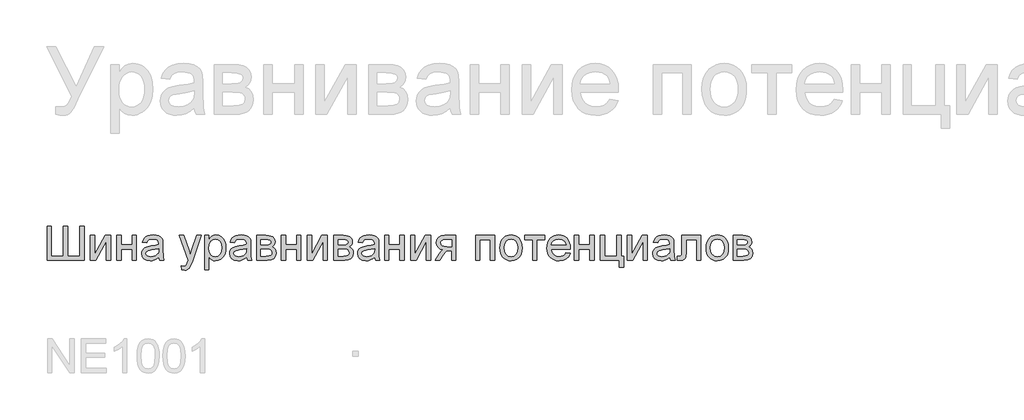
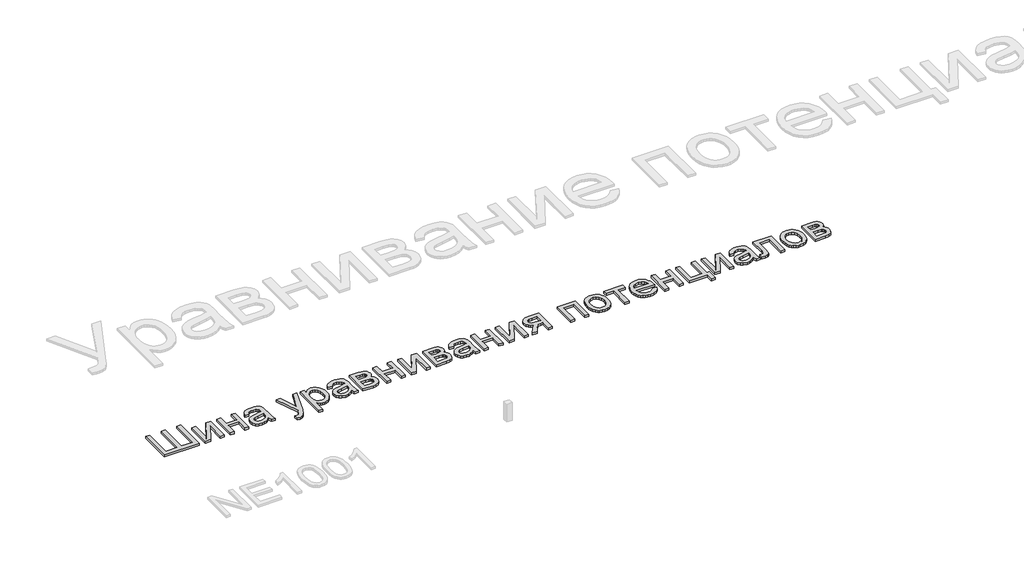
# One storey, part 82 of 124: 1 proxy.
"""IFC4 building model written with IfcOpenShell, lengths in millimetres."""

import ifcopenshell
import ifcopenshell.guid

model = None  # the IFC model being written
_history = None  # IfcOwnerHistory: only IFC2X3 demands one
_inside = {}  # id of a spatial element -> (the spatial element, [elements in it])
_under = {}  # id of a project, library or spatial element -> (it, [spatial elements below it])
_declared = {}  # id of a project -> (the project, [libraries it declares])
_typed = {}  # id of a type object -> (the type object, [elements of that type])
_made_of = {}  # id of a material, layer set ... -> (it, [elements and type objects made of it])


def new_model(schema):
    """Start an empty IFC model of exactly this schema.

    Asked for "IFC4X3", IfcOpenShell would pick the latest addendum, in which some entities
    have other attributes; the version numbers below select the first issue.
    IFC2X3 requires an IfcOwnerHistory on every rooted entity: one is made here for all.
    """
    global model, _history
    if schema == "IFC4X3":
        model = ifcopenshell.file(schema_version=(4, 3, 0, 0))
    else:
        model = ifcopenshell.file(schema=schema)
    _inside.clear()
    _under.clear()
    _declared.clear()
    _typed.clear()
    _made_of.clear()
    _history = None
    if model.schema == "IFC2X3":
        org = make("IfcOrganization", Name="unknown")
        user = make(
            "IfcPersonAndOrganization",
            ThePerson=make("IfcPerson", FamilyName="unknown"),
            TheOrganization=org,
        )
        app = make(
            "IfcApplication",
            ApplicationDeveloper=org,
            Version="unknown",
            ApplicationFullName="unknown",
            ApplicationIdentifier="unknown",
        )
        _history = make(
            "IfcOwnerHistory",
            OwningUser=user,
            OwningApplication=app,
            ChangeAction="ADDED",
            CreationDate=0,
        )
    return model


def make(cls, **values):
    """One entity of the class cls with the attributes given. An attribute that is None is left unset."""
    return model.create_entity(
        cls, **{name: value for name, value in values.items() if value is not None}
    )


def rooted(cls, **values):
    """An entity with a GlobalId (a new one), such as an element, a storey or a relation."""
    return make(cls, GlobalId=ifcopenshell.guid.new(), OwnerHistory=_history, **values)


def si_unit(unit_type, name, prefix=None):
    """IfcSIUnit, for example si_unit("LENGTHUNIT", "METRE", prefix="MILLI")."""
    return make("IfcSIUnit", UnitType=unit_type, Prefix=prefix, Name=name)


def assignment(units):
    """IfcUnitAssignment: the units of a project."""
    return None if units is None else make("IfcUnitAssignment", Units=units)


def point(xyz):
    """IfcCartesianPoint."""
    return None if xyz is None else make("IfcCartesianPoint", Coordinates=xyz)


def direction(xyz):
    """IfcDirection."""
    return None if xyz is None else make("IfcDirection", DirectionRatios=xyz)


def frame(location, z_axis=None, x_axis=None):
    """IfcAxis2Placement3D, a coordinate frame: its origin and axes. An axis left out is left unset."""
    return make(
        "IfcAxis2Placement3D",
        Location=point(location),
        Axis=direction(z_axis),
        RefDirection=direction(x_axis),
    )


def origin():
    """The frame at (0, 0, 0) with its axes left unset."""
    return frame((0.0, 0.0, 0.0))


def origin_with_axes():
    """The frame at (0, 0, 0) with the z axis (0, 0, 1) and the x axis (1, 0, 0) written out."""
    return frame((0.0, 0.0, 0.0), z_axis=(0.0, 0.0, 1.0), x_axis=(1.0, 0.0, 0.0))


def place(relative_to, where):
    """IfcLocalPlacement: puts the frame where relative to a parent placement (None: the world)."""
    return make(
        "IfcLocalPlacement", PlacementRelTo=relative_to, RelativePlacement=where
    )


def context(
    kind, dimensions, precision=None, world=None, true_north=None, identifier=None
):
    """IfcGeometricRepresentationContext, for example the 3D "Model" context."""
    return make(
        "IfcGeometricRepresentationContext",
        ContextIdentifier=identifier,
        ContextType=kind,
        CoordinateSpaceDimension=dimensions,
        Precision=precision,
        WorldCoordinateSystem=world,
        TrueNorth=true_north,
    )


def project(units=None, contexts=None):
    """IfcProject with its units and contexts."""
    return rooted(
        "IfcProject",
        Name="project",
        RepresentationContexts=contexts,
        UnitsInContext=assignment(units),
    )


def spatial(cls, under=None, at=None, **own):
    """A site, building, storey or space (cls), placed at a placement, below another one or the project."""
    s = rooted(cls, ObjectPlacement=at, **own)
    if under is not None:
        _under.setdefault(under.id(), (under, []))[1].append(s)
    return s


def polyline(points):
    """IfcPolyline through the points."""
    return make("IfcPolyline", Points=[point(p) for p in points])


def outline(outer, holes=None, kind="AREA"):
    """IfcArbitraryClosedProfileDef: a profile drawn as a closed curve; with holes, ...WithVoids."""
    if holes is None:
        return make("IfcArbitraryClosedProfileDef", ProfileType=kind, OuterCurve=outer)
    return make(
        "IfcArbitraryProfileDefWithVoids",
        ProfileType=kind,
        OuterCurve=outer,
        InnerCurves=holes,
    )


def extrude(swept, where, along, depth):
    """IfcExtrudedAreaSolid: the profile swept, set in the frame where, extruded along a direction by depth."""
    return make(
        "IfcExtrudedAreaSolid",
        SweptArea=swept,
        Position=where,
        ExtrudedDirection=direction(along),
        Depth=depth,
    )


def shape(context_of_items, identifier, shape_type, items):
    """IfcShapeRepresentation: the items that make up one representation, for example the "Body"."""
    return make(
        "IfcShapeRepresentation",
        ContextOfItems=context_of_items,
        RepresentationIdentifier=identifier,
        RepresentationType=shape_type,
        Items=items,
    )


def made_of(thing, what):
    """Note that an element or type object is made of a material, layer set ...; save() writes the relation."""
    if what is not None:
        _made_of.setdefault(what.id(), (what, []))[1].append(thing)
    return thing


def element(
    cls,
    number,
    at=None,
    inside=None,
    cuts=None,
    type_object=None,
    material=None,
    context=None,
    identifier="Body",
    shape_type=None,
    held_by="IfcProductDefinitionShape",
    body=None,
    shapes=None,
    **own,
):
    """One element of the class cls, such as IfcWall. Its Tag is "e" and its number.

    at: its placement. inside: the storey or other place that contains it. cuts: it is an
    opening in that element (IfcRelVoidsElement). A single representation is given by context,
    identifier, shape_type and body (its items); several are given by shapes. held_by: the class
    of the entity that holds the representations. save() writes the other relations.
    """
    e = rooted(cls, Tag="e%d" % number, ObjectPlacement=at, **own)
    if body is not None:
        shapes = [shape(context, identifier, shape_type, body)]
    if shapes is not None:
        e.Representation = make(held_by, Representations=shapes)
    if inside is not None:
        _inside.setdefault(inside.id(), (inside, []))[1].append(e)
    if cuts is not None:
        rooted(
            "IfcRelVoidsElement", RelatingBuildingElement=cuts, RelatedOpeningElement=e
        )
    if type_object is not None:
        _typed.setdefault(type_object.id(), (type_object, []))[1].append(e)
    return made_of(e, material)


def aggregate(whole, parts):
    """IfcRelAggregates: a whole, such as a stair, and the parts it consists of."""
    return rooted("IfcRelAggregates", RelatingObject=whole, RelatedObjects=parts)


def save(model, path):
    """Write the relations noted so far, then the file.

    IfcRelAggregates (storeys below a building ...), IfcRelContainedInSpatialStructure (elements
    in a storey), IfcRelDefinesByType, IfcRelAssociatesMaterial and IfcRelDeclares: one each for
    every whole, place, type object, material and project.
    """
    for whole, parts in _under.values():
        aggregate(whole, parts)
    for where, things in _inside.values():
        rooted(
            "IfcRelContainedInSpatialStructure",
            RelatedElements=things,
            RelatingStructure=where,
        )
    for kind, things in _typed.values():
        rooted("IfcRelDefinesByType", RelatedObjects=things, RelatingType=kind)
    for what, things in _made_of.values():
        rooted("IfcRelAssociatesMaterial", RelatedObjects=things, RelatingMaterial=what)
    for by, libraries in _declared.values():
        rooted("IfcRelDeclares", RelatingContext=by, RelatedDefinitions=libraries)
    model.write(path)


model = new_model("IFC4")

# Units and contexts
model_context = context("Model", 3, world=origin())
ifc_project = project(units=[si_unit("LENGTHUNIT", "METRE", prefix="MILLI")], contexts=[model_context])

# Site, building, storey
site = spatial("IfcSite", under=ifc_project)
building = spatial("IfcBuilding", under=site)
storey = spatial("IfcBuildingStorey", under=building, Name="Этаж 01", Elevation=0.0)

# Proxy
placement = place(None, origin())
element("IfcBuildingElementProxy", 1, Name="300", ObjectType="300", at=placement, inside=storey, context=model_context, shape_type="SweptSolid", body=[
    extrude(outline(polyline([(45235.1586486, -49773.1294316), (45272.8297649, -49773.1294316), (45272.8297649, -50036.8272457), (45381.1342243, -50036.8272457), (45381.1342243, -49773.1294316), (45418.8053406, -49773.1294316), (45418.8053406, -50036.8272457), (45527.1098, -50036.8272457), (45527.1098, -49773.1294316), (45564.7809163, -49773.1294316), (45564.7809163, -50074.498362), (45235.1586486, -50074.498362), (45235.1586486, -49773.1294316)])), origin_with_axes(), (0.0, 0.0, 1.0), 20.0),
    extrude(outline(polyline([(45621.2875907, -49853.1805537), (45658.9587071, -49853.1805537), (45658.9587071, -50021.9648131), (45751.517817, -49853.1805537), (45800.2253932, -49853.1805537), (45800.2253932, -50074.498362), (45762.5542769, -50074.498362), (45762.5542769, -49906.7441722), (45670.5837781, -50074.498362), (45621.2875907, -50074.498362), (45621.2875907, -49853.1805537)])), origin_with_axes(), (0.0, 0.0, 1.0), 20.0),
    extrude(outline(polyline([(45856.7320677, -49853.1805537), (45894.403184, -49853.1805537), (45894.403184, -49937.9405654), (45993.2898643, -49937.9405654), (45993.2898643, -49853.1805537), (46030.9609806, -49853.1805537), (46030.9609806, -50074.498362), (45993.2898643, -50074.498362), (45993.2898643, -49975.6116817), (45894.403184, -49975.6116817), (45894.403184, -50074.498362), (45856.7320677, -50074.498362), (45856.7320677, -49853.1805537)])), origin_with_axes(), (0.0, 0.0, 1.0), 20.0),
    extrude(outline(polyline([(46228.7343412, -50046.2450248), (46210.7357146, -50061.6776745), (46192.2036591, -50071.7760352), (46172.7151104, -50077.3494475), (46151.8470042, -50079.2072515), (46120.3655025, -50074.7374853), (46097.1429515, -50061.3281866), (46082.8231448, -50040.9659181), (46078.049876, -50015.6372428), (46079.8524977, -50000.0206521), (46085.2603631, -49985.8388012), (46093.6020873, -49973.6986953), (46104.2062858, -49964.2073398), (46130.5834249, -49951.8465048), (46163.1777696, -49946.1811221), (46201.6950145, -49940.2214338), (46228.513612, -49933.2316759), (46228.7343412, -49924.8439664), (46226.1407731, -49908.0317592), (46218.3600689, -49897.0320875), (46200.9592505, -49888.8651072), (46176.7158271, -49886.1427805), (46154.2750254, -49887.9545993), (46138.6032524, -49893.3900558), (46127.9162804, -49903.4424313), (46120.4298818, -49919.1050072), (46082.7587655, -49914.3961177), (46089.297868, -49893.794726), (46099.0559379, -49877.6079182), (46112.9434832, -49865.228689), (46131.8710119, -49856.0500333), (46155.0199864, -49850.3662564), (46181.5718694, -49848.4716642), (46207.0385005, -49850.1455272), (46227.226025, -49855.1671165), (46242.4471426, -49862.7178944), (46253.0145529, -49871.9793237), (46260.0227049, -49883.4296508), (46264.5660475, -49897.5471223), (46266.4054575, -49930.5093491), (46266.4054575, -49977.3775153), (46268.3184439, -50042.8237222), (46275.8232366, -50074.498362), (46238.1521203, -50074.498362), (46228.7343412, -50046.2450248)]), holes=[polyline([(46228.7343412, -49970.9027922), (46167.9602356, -49982.4542868), (46135.5498318, -49988.5611279), (46120.8713402, -49998.4939418), (46115.7209923, -50012.9884924), (46118.5260925, -50024.1904992), (46126.9413931, -50033.3691549), (46140.7829532, -50039.4943902), (46159.8668317, -50041.5361352), (46180.1003414, -50039.282858), (46197.9794064, -50032.5230264), (46212.473957, -50022.5626213), (46222.5539237, -50010.707624), (46227.0236899, -49998.4939418), (46228.513612, -49981.57137), (46228.7343412, -49970.9027922)])]), origin_with_axes(), (0.0, 0.0, 1.0), 20.0),
    extrude(outline(polyline([(46435.9254809, -50159.2583737), (46431.2165913, -50122.985209), (46450.3464551, -50126.2961469), (46468.22552, -50122.1390804), (46479.1884035, -50110.5507975), (46489.4890994, -50082.8124951), (46492.4321553, -50073.6890216), (46412.3810332, -49853.1805537), (46452.1122887, -49853.1805537), (46494.5658709, -49976.0531401), (46509.3547271, -50025.2021746), (46524.1435833, -49981.7920992), (46567.7743879, -49853.1805537), (46607.2113378, -49853.1805537), (46530.176848, -50079.7958627), (46510.1640675, -50128.9448973), (46499.9185539, -50144.6350644), (46488.311877, -50155.5059773), (46474.8290019, -50161.8519418), (46458.9548938, -50163.9672632), (46435.9254809, -50159.2583737)])), origin_with_axes(), (0.0, 0.0, 1.0), 20.0),
    extrude(outline(polyline([(46638.407731, -50159.2583737), (46638.407731, -49853.1805537), (46676.0788473, -49853.1805537), (46676.0788473, -49890.115906), (46688.366106, -49871.8965502), (46702.1248926, -49858.8827246), (46718.1645476, -49851.0744293), (46737.2944113, -49848.4716642), (46762.7702395, -49852.1136959), (46785.0454943, -49863.0397912), (46803.1820767, -49880.5877623), (46816.2418875, -49904.0954218), (46824.1329563, -49931.8521184), (46826.7633125, -49962.1472007), (46823.7926654, -49994.3644664), (46814.8807241, -50023.1788237), (46800.3125971, -50047.1279416), (46780.373393, -50064.7494891), (46757.150842, -50075.5928109), (46732.7326746, -50079.2072515), (46715.4146297, -50076.7884274), (46699.9543888, -50069.5319551), (46686.719834, -50058.5782687), (46676.0788473, -50045.0678024), (46676.0788473, -50159.2583737), (46638.407731, -50159.2583737)]), holes=[polyline([(46676.0788473, -49965.6052914), (46680.1531404, -49999.3768586), (46692.3760197, -50022.9948827), (46710.4114345, -50036.9008221), (46731.9233342, -50041.5361352), (46753.7847218, -50036.7352752), (46772.2799891, -50022.3326951), (46784.8891444, -49997.8501483), (46789.0921962, -49962.8093883), (46784.990312, -49929.2217621), (46772.6846593, -49905.2726442), (46754.6768356, -49890.9252464), (46733.4684386, -49886.1427805), (46712.1772681, -49891.2287491), (46693.4796657, -49906.4866548), (46680.4290519, -49931.4382511), (46676.0788473, -49965.6052914)])]), origin_with_axes(), (0.0, 0.0, 1.0), 20.0),
    extrude(outline(polyline([(47010.4100045, -50046.2450248), (46992.4113779, -50061.6776745), (46973.8793224, -50071.7760352), (46954.3907737, -50077.3494475), (46933.5226675, -50079.2072515), (46902.0411658, -50074.7374853), (46878.8186149, -50061.3281866), (46864.4988082, -50040.9659181), (46859.7255393, -50015.6372428), (46861.5281611, -50000.0206521), (46866.9360264, -49985.8388012), (46875.2777507, -49973.6986953), (46885.8819492, -49964.2073398), (46912.2590882, -49951.8465048), (46944.853433, -49946.1811221), (46983.3706779, -49940.2214338), (47010.1892753, -49933.2316759), (47010.4100045, -49924.8439664), (47007.8164365, -49908.0317592), (47000.0357323, -49897.0320875), (46982.6349139, -49888.8651072), (46958.3914904, -49886.1427805), (46935.9506887, -49887.9545993), (46920.2789157, -49893.3900558), (46909.5919438, -49903.4424313), (46902.1055452, -49919.1050072), (46864.4344288, -49914.3961177), (46870.9735313, -49893.794726), (46880.7316012, -49877.6079182), (46894.6191466, -49865.228689), (46913.5466752, -49856.0500333), (46936.6956498, -49850.3662564), (46963.2475328, -49848.4716642), (46988.7141639, -49850.1455272), (47008.9016884, -49855.1671165), (47024.1228059, -49862.7178944), (47034.6902162, -49871.9793237), (47041.6983682, -49883.4296508), (47046.2417109, -49897.5471223), (47048.0811208, -49930.5093491), (47048.0811208, -49977.3775153), (47049.9941072, -50042.8237222), (47057.4988999, -50074.498362), (47019.8277836, -50074.498362), (47010.4100045, -50046.2450248)]), holes=[polyline([(47010.4100045, -49970.9027922), (46949.6358989, -49982.4542868), (46917.2254952, -49988.5611279), (46902.5470036, -49998.4939418), (46897.3966556, -50012.9884924), (46900.2017558, -50024.1904992), (46908.6170565, -50033.3691549), (46922.4586165, -50039.4943902), (46941.542495, -50041.5361352), (46961.7760048, -50039.282858), (46979.6550697, -50032.5230264), (46994.1496203, -50022.5626213), (47004.229587, -50010.707624), (47008.6993533, -49998.4939418), (47010.1892753, -49981.57137), (47010.4100045, -49970.9027922)])]), origin_with_axes(), (0.0, 0.0, 1.0), 20.0),
    extrude(outline(polyline([(47099.8789058, -49853.1805537), (47182.8730839, -49853.1805537), (47209.5537256, -49854.4405495), (47228.3800867, -49858.220537), (47242.2308438, -49865.3574477), (47253.9846735, -49876.6882132), (47262.0136981, -49891.4494783), (47264.6900396, -49908.8778878), (47263.0713588, -49922.9217829), (47258.2153165, -49935.0342976), (47250.1035185, -49945.2706141), (47238.7175707, -49953.6859148), (47252.6602984, -49961.5126042), (47264.027852, -49974.1033655), (47271.587827, -49990.4649173), (47274.1078187, -50009.6039781), (47267.7250661, -50038.3171678), (47252.5499338, -50058.5322834), (47228.5272395, -50070.5068424), (47195.6018009, -50074.498362), (47099.8789058, -50074.498362), (47099.8789058, -49853.1805537)]), holes=[polyline([(47137.5500221, -50036.8272457), (47183.7560007, -50036.8272457), (47208.9375232, -50035.1257915), (47224.7380549, -50030.0214288), (47233.2177349, -50020.7416055), (47236.4367024, -50006.5137693), (47234.8272186, -49997.0867932), (47229.9987675, -49988.3771869), (47222.5859453, -49981.562173), (47213.2233485, -49977.8189737), (47180.0771807, -49975.6116817), (47137.5500221, -49975.6116817), (47137.5500221, -50036.8272457)]), polyline([(47137.5500221, -49937.9405654), (47174.77968, -49937.9405654), (47205.4978266, -49936.027579), (47220.4338356, -49928.3756335), (47225.3726514, -49922.0480632), (47227.0189233, -49914.5432705), (47224.1310496, -49903.3044755), (47215.4674286, -49896.0755943), (47199.8140498, -49892.1576511), (47175.9569024, -49890.85167), (47137.5500221, -49890.85167), (47137.5500221, -49937.9405654)])]), origin_with_axes(), (0.0, 0.0, 1.0), 20.0),
    extrude(outline(polyline([(47321.1967141, -49853.1805537), (47358.8678304, -49853.1805537), (47358.8678304, -49937.9405654), (47457.7545107, -49937.9405654), (47457.7545107, -49853.1805537), (47495.425627, -49853.1805537), (47495.425627, -50074.498362), (47457.7545107, -50074.498362), (47457.7545107, -49975.6116817), (47358.8678304, -49975.6116817), (47358.8678304, -50074.498362), (47321.1967141, -50074.498362), (47321.1967141, -49853.1805537)])), origin_with_axes(), (0.0, 0.0, 1.0), 20.0),
    extrude(outline(polyline([(47551.9323014, -49853.1805537), (47589.6034177, -49853.1805537), (47589.6034177, -50021.9648131), (47682.1625277, -49853.1805537), (47730.8701039, -49853.1805537), (47730.8701039, -50074.498362), (47693.1989876, -50074.498362), (47693.1989876, -49906.7441722), (47601.2284888, -50074.498362), (47551.9323014, -50074.498362), (47551.9323014, -49853.1805537)])), origin_with_axes(), (0.0, 0.0, 1.0), 20.0),
    extrude(outline(polyline([(47787.3767783, -49853.1805537), (47870.3709565, -49853.1805537), (47897.0515982, -49854.4405495), (47915.8779593, -49858.220537), (47929.7287164, -49865.3574477), (47941.4825461, -49876.6882132), (47949.5115707, -49891.4494783), (47952.1879122, -49908.8778878), (47950.5692314, -49922.9217829), (47945.7131891, -49935.0342976), (47937.6013911, -49945.2706141), (47926.2154433, -49953.6859148), (47940.1581709, -49961.5126042), (47951.5257246, -49974.1033655), (47959.0856996, -49990.4649173), (47961.6056913, -50009.6039781), (47955.2229386, -50038.3171678), (47940.0478063, -50058.5322834), (47916.0251121, -50070.5068424), (47883.0996735, -50074.498362), (47787.3767783, -50074.498362), (47787.3767783, -49853.1805537)]), holes=[polyline([(47825.0478947, -49937.9405654), (47862.2775526, -49937.9405654), (47892.9956992, -49936.027579), (47907.9317082, -49928.3756335), (47912.870524, -49922.0480632), (47914.5167959, -49914.5432705), (47911.6289222, -49903.3044755), (47902.9653012, -49896.0755943), (47887.3119223, -49892.1576511), (47863.454775, -49890.85167), (47825.0478947, -49890.85167), (47825.0478947, -49937.9405654)]), polyline([(47825.0478947, -50036.8272457), (47871.2538732, -50036.8272457), (47896.4353958, -50035.1257915), (47912.2359275, -50030.0214288), (47920.7156075, -50020.7416055), (47923.934575, -50006.5137693), (47922.3250912, -49997.0867932), (47917.49664, -49988.3771869), (47910.0838178, -49981.562173), (47900.7212211, -49977.8189737), (47867.5750533, -49975.6116817), (47825.0478947, -49975.6116817), (47825.0478947, -50036.8272457)])]), origin_with_axes(), (0.0, 0.0, 1.0), 20.0),
    extrude(outline(polyline([(48149.9612728, -50046.2450248), (48131.9626462, -50061.6776745), (48113.4305907, -50071.7760352), (48093.942042, -50077.3494475), (48073.0739358, -50079.2072515), (48041.5924341, -50074.7374853), (48018.3698831, -50061.3281866), (48004.0500765, -50040.9659181), (47999.2768076, -50015.6372428), (48001.0794293, -50000.0206521), (48006.4872947, -49985.8388012), (48014.8290189, -49973.6986953), (48025.4332174, -49964.2073398), (48051.8103565, -49951.8465048), (48084.4047013, -49946.1811221), (48122.9219462, -49940.2214338), (48149.7405436, -49933.2316759), (48149.9612728, -49924.8439664), (48147.3677047, -49908.0317592), (48139.5870005, -49897.0320875), (48122.1861822, -49888.8651072), (48097.9427587, -49886.1427805), (48075.501957, -49887.9545993), (48059.830184, -49893.3900558), (48049.143212, -49903.4424313), (48041.6568134, -49919.1050072), (48003.9856971, -49914.3961177), (48010.5247996, -49893.794726), (48020.2828695, -49877.6079182), (48034.1704148, -49865.228689), (48053.0979435, -49856.0500333), (48076.246918, -49850.3662564), (48102.798801, -49848.4716642), (48128.2654321, -49850.1455272), (48148.4529566, -49855.1671165), (48163.6740742, -49862.7178944), (48174.2414845, -49871.9793237), (48181.2496365, -49883.4296508), (48185.7929791, -49897.5471223), (48187.6323891, -49930.5093491), (48187.6323891, -49977.3775153), (48189.5453755, -50042.8237222), (48197.0501682, -50074.498362), (48159.3790519, -50074.498362), (48149.9612728, -50046.2450248)]), holes=[polyline([(48149.9612728, -49970.9027922), (48089.1871672, -49982.4542868), (48056.7767634, -49988.5611279), (48042.0982718, -49998.4939418), (48036.9479239, -50012.9884924), (48039.7530241, -50024.1904992), (48048.1683247, -50033.3691549), (48062.0098848, -50039.4943902), (48081.0937633, -50041.5361352), (48101.327273, -50039.282858), (48119.206338, -50032.5230264), (48133.7008886, -50022.5626213), (48143.7808553, -50010.707624), (48148.2506215, -49998.4939418), (48149.7405436, -49981.57137), (48149.9612728, -49970.9027922)])]), origin_with_axes(), (0.0, 0.0, 1.0), 20.0),
    extrude(outline(polyline([(48239.430174, -49853.1805537), (48277.1012903, -49853.1805537), (48277.1012903, -49937.9405654), (48375.9879706, -49937.9405654), (48375.9879706, -49853.1805537), (48413.6590869, -49853.1805537), (48413.6590869, -50074.498362), (48375.9879706, -50074.498362), (48375.9879706, -49975.6116817), (48277.1012903, -49975.6116817), (48277.1012903, -50074.498362), (48239.430174, -50074.498362), (48239.430174, -49853.1805537)])), origin_with_axes(), (0.0, 0.0, 1.0), 20.0),
    extrude(outline(polyline([(48470.1657614, -49853.1805537), (48507.8368777, -49853.1805537), (48507.8368777, -50021.9648131), (48600.3959877, -49853.1805537), (48649.1035639, -49853.1805537), (48649.1035639, -50074.498362), (48611.4324475, -50074.498362), (48611.4324475, -49906.7441722), (48519.4619488, -50074.498362), (48470.1657614, -50074.498362), (48470.1657614, -49853.1805537)])), origin_with_axes(), (0.0, 0.0, 1.0), 20.0),
    extrude(outline(polyline([(48875.1302617, -49853.1805537), (48875.1302617, -50074.498362), (48837.4591454, -50074.498362), (48837.4591454, -49989.7383503), (48816.9313301, -49989.7383503), (48788.9722984, -49994.5208163), (48777.8070799, -50004.9502708), (48762.705524, -50026.6737026), (48732.6863532, -50074.498362), (48689.1291249, -50074.498362), (48726.947394, -50014.018562), (48743.6492366, -49992.3135243), (48759.026704, -49982.675016), (48733.2749643, -49974.7839472), (48715.1751702, -49959.7927559), (48704.4698041, -49939.8535518), (48700.9013488, -49917.1184445), (48705.7757852, -49891.3299166), (48720.3990945, -49870.9124659), (48744.2562419, -49857.6135317), (48776.8321926, -49853.1805537), (48875.1302617, -49853.1805537)]), holes=[polyline([(48837.4591454, -49890.85167), (48787.795076, -49890.85167), (48762.1445039, -49893.0313708), (48747.585574, -49899.5704733), (48740.8257423, -49909.0342376), (48738.5724651, -49919.987924), (48741.8926001, -49934.3445189), (48751.8530051, -49944.3049239), (48770.2563019, -49950.1266565), (48798.9051123, -49952.067234), (48837.4591454, -49952.067234), (48837.4591454, -49890.85167)])]), origin_with_axes(), (0.0, 0.0, 1.0), 20.0),
    extrude(outline(polyline([(49049.3591746, -49853.1805537), (49218.879198, -49853.1805537), (49218.879198, -50074.498362), (49181.2080817, -50074.498362), (49181.2080817, -49890.85167), (49087.0302909, -49890.85167), (49087.0302909, -50074.498362), (49049.3591746, -50074.498362), (49049.3591746, -49853.1805537)])), origin_with_axes(), (0.0, 0.0, 1.0), 20.0),
    extrude(outline(polyline([(49265.9680934, -49963.8394579), (49268.0052399, -49935.1768519), (49274.1166796, -49910.4781745), (49284.3024123, -49889.7434255), (49298.5624381, -49872.972605), (49312.919033, -49862.2534434), (49328.7655499, -49854.5968994), (49346.101989, -49850.002973), (49364.9283501, -49848.4716642), (49385.7113835, -49850.336366), (49404.5032557, -49855.9304716), (49421.3039666, -49865.2539809), (49436.1135161, -49878.306894), (49448.2007389, -49894.6477523), (49456.8344695, -49913.8350977), (49462.0147079, -49935.8689299), (49463.741454, -49960.7492491), (49460.6880334, -49998.8066415), (49451.5277717, -50027.7773486), (49436.5273834, -50049.4731893), (49415.9535828, -50065.7059823), (49391.5170213, -50075.8319342), (49364.9283501, -50079.2072515), (49343.841814, -50077.3494475), (49324.8751978, -50071.7760352), (49308.0285017, -50062.4870149), (49293.3017256, -50049.4823863), (49281.3432615, -50032.9828788), (49272.8015014, -50013.2092216), (49267.6764454, -49990.1614146), (49265.9680934, -49963.8394579)]), holes=[polyline([(49303.6392097, -49963.7658815), (49307.9986113, -49997.8593454), (49321.0768162, -50022.1487541), (49340.758503, -50036.6892899), (49364.9283501, -50041.5361352), (49388.9878326, -50036.6616988), (49408.6327311, -50022.0383895), (49421.710936, -49997.427084), (49426.0703377, -49962.5886591), (49421.6833449, -49929.4884766), (49408.5223665, -49905.5301616), (49388.8498768, -49890.9896258), (49364.9283501, -49886.1427805), (49340.758503, -49890.9712317), (49321.0768162, -49905.4565852), (49307.9986113, -49929.6908117), (49303.6392097, -49963.7658815)])]), origin_with_axes(), (0.0, 0.0, 1.0), 20.0),
    extrude(outline(polyline([(49487.2859017, -49853.1805537), (49666.2237041, -49853.1805537), (49666.2237041, -49890.85167), (49595.590361, -49890.85167), (49595.590361, -50074.498362), (49557.9192447, -50074.498362), (49557.9192447, -49890.85167), (49487.2859017, -49890.85167), (49487.2859017, -49853.1805537)])), origin_with_axes(), (0.0, 0.0, 1.0), 20.0),
    extrude(outline(polyline([(49854.1378273, -50008.5739085), (49891.0731796, -50013.282798), (49877.7650484, -50041.1130709), (49856.5290602, -50061.9167978), (49827.8434616, -50074.8846381), (49792.1864993, -50079.2072515), (49768.812197, -50077.3425497), (49747.9854775, -50071.7484441), (49729.7063409, -50062.4249348), (49713.9747871, -50049.3720217), (49701.324245, -50032.9529884), (49692.2881435, -50013.5311184), (49686.8664826, -49991.1064115), (49685.0592623, -49965.6788678), (49686.8848767, -49939.3891007), (49692.3617199, -49916.2171336), (49701.4897919, -49896.1629663), (49714.2690927, -49879.226599), (49729.9592598, -49865.771315), (49747.8199306, -49856.1603979), (49767.8511053, -49850.3938476), (49790.0527837, -49848.4716642), (49811.5393915, -49850.3892491), (49830.9704586, -49856.1420038), (49848.3459851, -49865.7299283), (49863.6659709, -49879.1530226), (49876.1716595, -49896.0526017), (49885.1042942, -49916.0699808), (49890.463875, -49939.2051598), (49892.250402, -49965.4581386), (49892.0296728, -49975.6116817), (49722.7303786, -49975.6116817), (49729.2510869, -50003.8098366), (49744.3986281, -50024.5399871), (49766.2600157, -50037.2870982), (49792.9222633, -50041.5361352), (49812.971832, -50039.5679666), (49829.8576156, -50033.6634605), (49843.579614, -50023.4547352), (49854.1378273, -50008.5739085)]), holes=[polyline([(49722.7303786, -49937.9405654), (49854.5792856, -49937.9405654), (49849.48412, -49918.0381495), (49839.4961238, -49903.8011162), (49817.5335687, -49890.5573644), (49789.9056309, -49886.1427805), (49764.5125762, -49889.6652506), (49743.5157113, -49900.2326609), (49728.9199931, -49916.7045772), (49722.7303786, -49937.9405654)])]), origin_with_axes(), (0.0, 0.0, 1.0), 20.0),
    extrude(outline(polyline([(49929.9215183, -49853.1805537), (49967.5926346, -49853.1805537), (49967.5926346, -49937.9405654), (50066.4793149, -49937.9405654), (50066.4793149, -49853.1805537), (50104.1504312, -49853.1805537), (50104.1504312, -50074.498362), (50066.4793149, -50074.498362), (50066.4793149, -49975.6116817), (49967.5926346, -49975.6116817), (49967.5926346, -50074.498362), (49929.9215183, -50074.498362), (49929.9215183, -49853.1805537)])), origin_with_axes(), (0.0, 0.0, 1.0), 20.0),
    extrude(outline(polyline([(50160.6571056, -49853.1805537), (50198.3282219, -49853.1805537), (50198.3282219, -50036.8272457), (50306.6326813, -50036.8272457), (50306.6326813, -49853.1805537), (50344.3037976, -49853.1805537), (50344.3037976, -50036.8272457), (50367.8482453, -50036.8272457), (50367.8482453, -50135.713926), (50330.177129, -50135.713926), (50330.177129, -50074.498362), (50160.6571056, -50074.498362), (50160.6571056, -49853.1805537)])), origin_with_axes(), (0.0, 0.0, 1.0), 20.0),
    extrude(outline(polyline([(50400.8104721, -49853.1805537), (50438.4815884, -49853.1805537), (50438.4815884, -50021.9648131), (50531.0406984, -49853.1805537), (50579.7482745, -49853.1805537), (50579.7482745, -50074.498362), (50542.0771582, -50074.498362), (50542.0771582, -49906.7441722), (50450.1066594, -50074.498362), (50400.8104721, -50074.498362), (50400.8104721, -49853.1805537)])), origin_with_axes(), (0.0, 0.0, 1.0), 20.0),
    extrude(outline(polyline([(50777.5216351, -50046.2450248), (50759.5230085, -50061.6776745), (50740.990953, -50071.7760352), (50721.5024043, -50077.3494475), (50700.6342982, -50079.2072515), (50669.1527964, -50074.7374853), (50645.9302455, -50061.3281866), (50631.6104388, -50040.9659181), (50626.8371699, -50015.6372428), (50628.6397917, -50000.0206521), (50634.047657, -49985.8388012), (50642.3893813, -49973.6986953), (50652.9935798, -49964.2073398), (50679.3707188, -49951.8465048), (50711.9650636, -49946.1811221), (50750.4823085, -49940.2214338), (50777.3009059, -49933.2316759), (50777.5216351, -49924.8439664), (50774.9280671, -49908.0317592), (50767.1473629, -49897.0320875), (50749.7465445, -49888.8651072), (50725.503121, -49886.1427805), (50703.0623193, -49887.9545993), (50687.3905463, -49893.3900558), (50676.7035744, -49903.4424313), (50669.2171758, -49919.1050072), (50631.5460595, -49914.3961177), (50638.0851619, -49893.794726), (50647.8432318, -49877.6079182), (50661.7307772, -49865.228689), (50680.6583058, -49856.0500333), (50703.8072804, -49850.3662564), (50730.3591634, -49848.4716642), (50755.8257945, -49850.1455272), (50776.013319, -49855.1671165), (50791.2344365, -49862.7178944), (50801.8018468, -49871.9793237), (50808.8099988, -49883.4296508), (50813.3533415, -49897.5471223), (50815.1927515, -49930.5093491), (50815.1927515, -49977.3775153), (50817.1057378, -50042.8237222), (50824.6105305, -50074.498362), (50786.9394142, -50074.498362), (50777.5216351, -50046.2450248)]), holes=[polyline([(50777.5216351, -49970.9027922), (50716.7475295, -49982.4542868), (50684.3371258, -49988.5611279), (50669.6586342, -49998.4939418), (50664.5082862, -50012.9884924), (50667.3133864, -50024.1904992), (50675.7286871, -50033.3691549), (50689.5702471, -50039.4943902), (50708.6541256, -50041.5361352), (50728.8876354, -50039.282858), (50746.7667003, -50032.5230264), (50761.261251, -50022.5626213), (50771.3412176, -50010.707624), (50775.8109839, -49998.4939418), (50777.3009059, -49981.57137), (50777.5216351, -49970.9027922)])]), origin_with_axes(), (0.0, 0.0, 1.0), 20.0),
    extrude(outline(polyline([(50885.8260945, -49853.1805537), (51055.3461179, -49853.1805537), (51055.3461179, -50074.2776328), (51017.6750016, -50074.2776328), (51017.6750016, -49890.85167), (50923.4972108, -49890.85167), (50923.4972108, -49996.4338026), (50920.9588251, -50045.1413788), (50916.2039503, -50056.1686416), (50907.0160974, -50065.7059823), (50893.0733698, -50072.3002671), (50874.0538707, -50074.498362), (50843.4460887, -50072.5853756), (50843.4460887, -50036.8272457), (50860.2950841, -50036.8272457), (50877.3280204, -50034.5095891), (50884.1338373, -50027.1519492), (50885.8260945, -49994.3000871), (50885.8260945, -49853.1805537)])), origin_with_axes(), (0.0, 0.0, 1.0), 20.0),
    extrude(outline(polyline([(51102.4350133, -49963.8394579), (51104.4721598, -49935.1768519), (51110.5835995, -49910.4781745), (51120.7693322, -49889.7434255), (51135.0293581, -49872.972605), (51149.3859529, -49862.2534434), (51165.2324699, -49854.5968994), (51182.5689089, -49850.002973), (51201.39527, -49848.4716642), (51222.1783035, -49850.336366), (51240.9701756, -49855.9304716), (51257.7708865, -49865.2539809), (51272.5804361, -49878.306894), (51284.6676589, -49894.6477523), (51293.3013894, -49913.8350977), (51298.4816278, -49935.8689299), (51300.2083739, -49960.7492491), (51297.1549533, -49998.8066415), (51287.9946917, -50027.7773486), (51272.9943033, -50049.4731893), (51252.4205027, -50065.7059823), (51227.9839412, -50075.8319342), (51201.39527, -50079.2072515), (51180.3087339, -50077.3494475), (51161.3421178, -50071.7760352), (51144.4954216, -50062.4870149), (51129.7686455, -50049.4823863), (51117.8101814, -50032.9828788), (51109.2684213, -50013.2092216), (51104.1433653, -49990.1614146), (51102.4350133, -49963.8394579)]), holes=[polyline([(51140.1061296, -49963.7658815), (51144.4655312, -49997.8593454), (51157.5437362, -50022.1487541), (51177.2254229, -50036.6892899), (51201.39527, -50041.5361352), (51225.4547525, -50036.6616988), (51245.099651, -50022.0383895), (51258.1778559, -49997.427084), (51262.5372576, -49962.5886591), (51258.1502648, -49929.4884766), (51244.9892864, -49905.5301616), (51225.3167967, -49890.9896258), (51201.39527, -49886.1427805), (51177.2254229, -49890.9712317), (51157.5437362, -49905.4565852), (51144.4655312, -49929.6908117), (51140.1061296, -49963.7658815)])]), origin_with_axes(), (0.0, 0.0, 1.0), 20.0),
    extrude(outline(polyline([(51342.5883797, -49853.1805537), (51425.5825578, -49853.1805537), (51452.2631996, -49854.4405495), (51471.0895607, -49858.220537), (51484.9403178, -49865.3574477), (51496.6941475, -49876.6882132), (51504.7231721, -49891.4494783), (51507.3995136, -49908.8778878), (51505.7808328, -49922.9217829), (51500.9247905, -49935.0342976), (51492.8129925, -49945.2706141), (51481.4270447, -49953.6859148), (51495.3697723, -49961.5126042), (51506.737326, -49974.1033655), (51514.297301, -49990.4649173), (51516.8172927, -50009.6039781), (51510.43454, -50038.3171678), (51495.2594077, -50058.5322834), (51471.2367135, -50070.5068424), (51438.3112749, -50074.498362), (51342.5883797, -50074.498362), (51342.5883797, -49853.1805537)]), holes=[polyline([(51380.259496, -49937.9405654), (51417.489154, -49937.9405654), (51448.2073006, -49936.027579), (51463.1433096, -49928.3756335), (51468.0821253, -49922.0480632), (51469.7283973, -49914.5432705), (51466.8405236, -49903.3044755), (51458.1769026, -49896.0755943), (51442.5235237, -49892.1576511), (51418.6663763, -49890.85167), (51380.259496, -49890.85167), (51380.259496, -49937.9405654)]), polyline([(51380.259496, -50036.8272457), (51426.4654746, -50036.8272457), (51451.6469972, -50035.1257915), (51467.4475289, -50030.0214288), (51475.9272089, -50020.7416055), (51479.1461763, -50006.5137693), (51477.5366926, -49997.0867932), (51472.7082414, -49988.3771869), (51465.2954192, -49981.562173), (51455.9328225, -49977.8189737), (51422.7866547, -49975.6116817), (51380.259496, -49975.6116817), (51380.259496, -50036.8272457)])]), origin_with_axes(), (0.0, 0.0, 1.0), 20.0),
])

save(model, "model.ifc")
